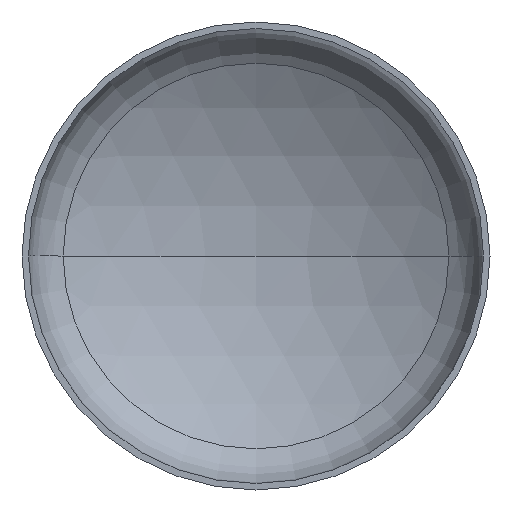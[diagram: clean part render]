
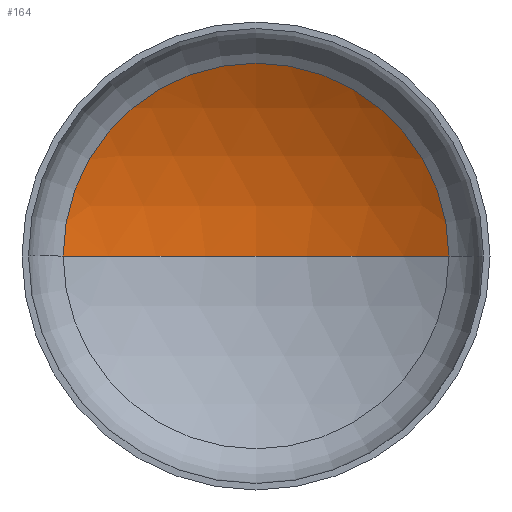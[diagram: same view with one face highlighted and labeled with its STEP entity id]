
A CAD part, front view. The second image highlights one B-rep face of the part: STEP entity #164.
In plain terms, the highlighted spherical face has radius 1440 mm.
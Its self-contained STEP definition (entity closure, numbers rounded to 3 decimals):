
#7 = ORIENTED_EDGE ( 'NONE', *, *, #130, .F. ) ;
#8 = EDGE_LOOP ( 'NONE', ( #7, #10, #297 ) ) ;
#10 = ORIENTED_EDGE ( 'NONE', *, *, #114, .T. ) ;
#13 = CIRCLE ( 'NONE', #398, 1440. ) ;
#14 = VERTEX_POINT ( 'NONE', #282 ) ;
#45 = VERTEX_POINT ( 'NONE', #233 ) ;
#54 = AXIS2_PLACEMENT_3D ( 'NONE', #342, #373, #366 ) ;
#93 = CARTESIAN_POINT ( 'NONE',  ( 0., 310.724, 0. ) ) ;
#101 = VERTEX_POINT ( 'NONE', #314 ) ;
#114 = EDGE_CURVE ( 'NONE', #101, #14, #13, .T. ) ;
#119 = AXIS2_PLACEMENT_3D ( 'NONE', #93, #162, #264 ) ;
#130 = EDGE_CURVE ( 'NONE', #101, #45, #217, .T. ) ;
#162 = DIRECTION ( 'NONE',  ( 0., -1., 0. ) ) ;
#164 = ADVANCED_FACE ( 'NONE', ( #410 ), #345, .F. ) ;
#165 = AXIS2_PLACEMENT_3D ( 'NONE', #307, #310, #290 ) ;
#170 = CIRCLE ( 'NONE', #119, 741.631 ) ;
#217 = CIRCLE ( 'NONE', #54, 1440. ) ;
#233 = CARTESIAN_POINT ( 'NONE',  ( -741.631, 310.724, 0. ) ) ;
#264 = DIRECTION ( 'NONE',  ( 1., 0., 0. ) ) ;
#282 = CARTESIAN_POINT ( 'NONE',  ( 741.631, 310.724, 0. ) ) ;
#290 = DIRECTION ( 'NONE',  ( -1., 0., 0. ) ) ;
#297 = ORIENTED_EDGE ( 'NONE', *, *, #346, .T. ) ;
#307 = CARTESIAN_POINT ( 'NONE',  ( 0., -923.612, 0. ) ) ;
#310 = DIRECTION ( 'NONE',  ( 0., 0., -1. ) ) ;
#314 = CARTESIAN_POINT ( 'NONE',  ( 0., 516.388, 0. ) ) ;
#339 = DIRECTION ( 'NONE',  ( -1., 0., 0. ) ) ;
#340 = DIRECTION ( 'NONE',  ( 0., 0., -1. ) ) ;
#341 = CARTESIAN_POINT ( 'NONE',  ( 0., -923.612, 0. ) ) ;
#342 = CARTESIAN_POINT ( 'NONE',  ( 0., -923.612, 0. ) ) ;
#345 = SPHERICAL_SURFACE ( 'NONE', #165, 1440. ) ;
#346 = EDGE_CURVE ( 'NONE', #14, #45, #170, .T. ) ;
#366 = DIRECTION ( 'NONE',  ( 1., 0., 0. ) ) ;
#373 = DIRECTION ( 'NONE',  ( 0., 0., 1. ) ) ;
#398 = AXIS2_PLACEMENT_3D ( 'NONE', #341, #340, #339 ) ;
#410 = FACE_OUTER_BOUND ( 'NONE', #8, .T. ) ;
